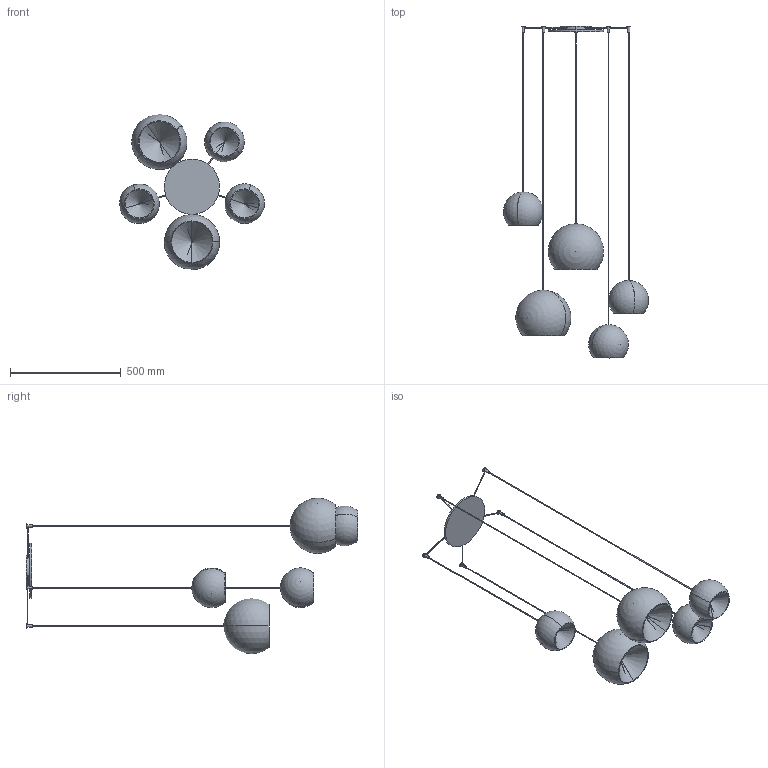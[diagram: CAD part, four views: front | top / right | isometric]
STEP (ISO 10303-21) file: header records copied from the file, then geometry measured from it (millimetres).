
FILE_DESCRIPTION (( 'STEP AP203' ), '1' );
FILE_NAME ('CRM05-00-CHERRY MIX_5 SOSPENSIONE.STEP', '2024-07-31T09:34:19', ( '' ), ( '' ), 'SwSTEP 2.0', 'SolidWorks 2022', '' );
FILE_SCHEMA (( 'CONFIG_CONTROL_DESIGN' ));
Length unit declared in the file: millimetre
Products named in the file (7): CRM05-00-CHERRY MIX_5 SOSPENSIONE; CHERRY_Lampada singola Diam.180_H=1500; CHERRY MIX_Rosone diam.250_Cherry 5<A macchina>; CHERRY MIX_Lampada singola Diam.250_H=1600; CHERRY MIX_Lampada singola Diam.250_H=1900; CHERRY_Lampada singola Diam.180_H=1700; CHERRY_Lampada singola Diam.180_H=2100
Assembly tree (6 placements, depth 2):
  CRM05-00-CHERRY MIX_5 SOSPENSIONE
    CHERRY MIX_Rosone diam.250_Cherry 5<A macchina>
    CHERRY_Lampada singola Diam.180_H=1500
    CHERRY MIX_Lampada singola Diam.250_H=1600
    CHERRY MIX_Lampada singola Diam.250_H=1900
    CHERRY_Lampada singola Diam.180_H=1700
    CHERRY_Lampada singola Diam.180_H=2100
Bounding box: 655.08 x 1500 x 701.79 mm (x, y, z)
Volume: 2072999.7 mm3; surface area: 1634436.6 mm2
Topology: 26 solids, 26 shells, 193 faces, 458 edges, 288 vertices
Faces by surface type: cylinder 94, plane 59, sphere 20, cone 20
Entity records: 6107 total; most frequent: CARTESIAN_POINT 1268, DIRECTION 952, ORIENTED_EDGE 776, AXIS2_PLACEMENT_3D 422, EDGE_CURVE 388, VERTEX_POINT 258, CIRCLE 220, EDGE_LOOP 214
